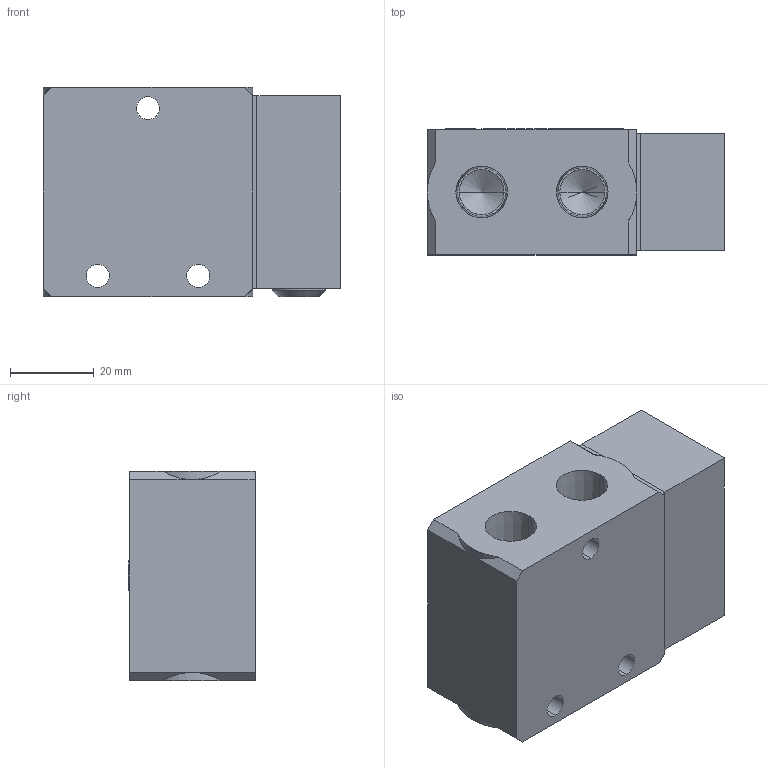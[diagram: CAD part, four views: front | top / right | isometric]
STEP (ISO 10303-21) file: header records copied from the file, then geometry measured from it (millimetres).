
FILE_DESCRIPTION (( 'STEP AP203' ), '1' );
FILE_NAME ('VS2306-02.STEP', '2016-01-13T18:40:45', ( '' ), ( '' ), 'SwSTEP 2.0', 'SolidWorks 2014', '' );
FILE_SCHEMA (( 'CONFIG_CONTROL_DESIGN' ));
Length unit declared in the file: millimetre
Products named in the file (7): VS2306-4; M4; VS2306-02; VS2306-2; VS2306-1=02; VS2306-MARK; 止付1-4
Assembly tree (9 placements, depth 2):
  VS2306-02
    VS2306-1=02
    VS2306-2
    M4  x4
    止付1-4
    VS2306-MARK
    VS2306-4
Bounding box: 71 x 30.1 x 50 mm (x, y, z)
Volume: 90780.8 mm3; surface area: 26130 mm2
Topology: 16 solids, 16 shells, 414 faces, 1025 edges, 648 vertices
Faces by surface type: plane 238, cylinder 69, cone 62, bspline 19, torus 16, sphere 10
Entity records: 10684 total; most frequent: CARTESIAN_POINT 2511, ORIENTED_EDGE 1514, DIRECTION 1495, EDGE_CURVE 757, LINE 501, VECTOR 501, AXIS2_PLACEMENT_3D 497, VERTEX_POINT 495
